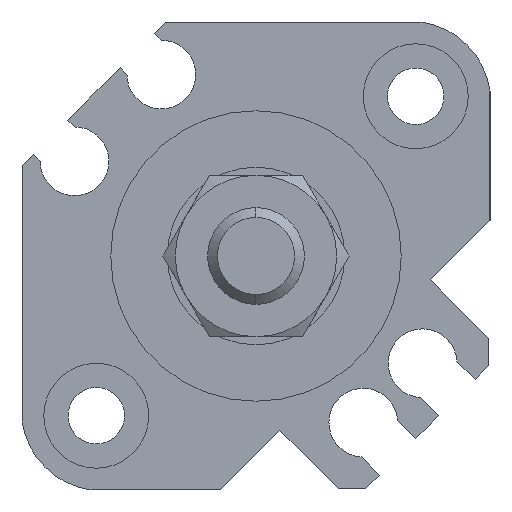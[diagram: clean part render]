
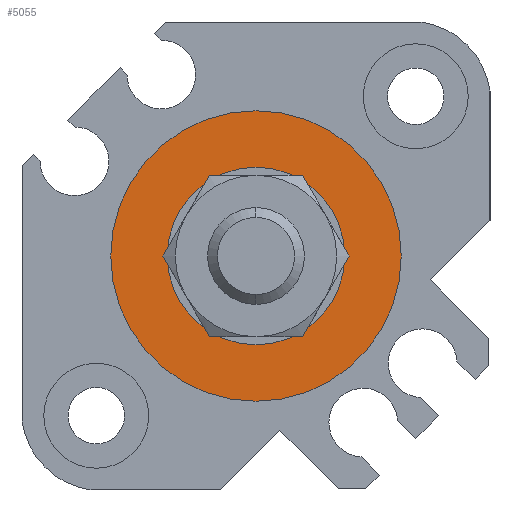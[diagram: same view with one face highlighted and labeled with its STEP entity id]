
A CAD part, left-side view. The second image highlights one B-rep face of the part: STEP entity #5055.
In plain terms, the highlighted planar face has unit normal (-1, 0, 0).
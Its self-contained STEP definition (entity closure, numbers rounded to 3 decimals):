
#274 = EDGE_LOOP ( 'NONE', ( #3745, #2729 ) ) ;
#281 = DIRECTION ( 'NONE',  ( 1., 0., 0. ) ) ;
#284 = CARTESIAN_POINT ( 'NONE',  ( 1.1, 0., 5.5 ) ) ;
#510 = CARTESIAN_POINT ( 'NONE',  ( 1.1, 0., 0. ) ) ;
#624 = DIRECTION ( 'NONE',  ( 1., 0., 0. ) ) ;
#729 = AXIS2_PLACEMENT_3D ( 'NONE', #1157, #2762, #2402 ) ;
#808 = EDGE_CURVE ( 'NONE', #3299, #2367, #1043, .T. ) ;
#972 = FACE_BOUND ( 'NONE', #274, .T. ) ;
#1043 = CIRCLE ( 'NONE', #2899, 5.5 ) ;
#1046 = DIRECTION ( 'NONE',  ( 0., 0., -1. ) ) ;
#1157 = CARTESIAN_POINT ( 'NONE',  ( 1.1, 0., 0. ) ) ;
#1321 = AXIS2_PLACEMENT_3D ( 'NONE', #3110, #281, #1046 ) ;
#1353 = CARTESIAN_POINT ( 'NONE',  ( 1.1, 0., -5.5 ) ) ;
#1378 = PLANE ( 'NONE',  #4478 ) ;
#1789 = CARTESIAN_POINT ( 'NONE',  ( 1.1, 0., 0. ) ) ;
#2160 = CIRCLE ( 'NONE', #4282, 9. ) ;
#2187 = CARTESIAN_POINT ( 'NONE',  ( 1.1, 0., 9. ) ) ;
#2221 = FACE_OUTER_BOUND ( 'NONE', #5128, .T. ) ;
#2367 = VERTEX_POINT ( 'NONE', #284 ) ;
#2402 = DIRECTION ( 'NONE',  ( 0., 0., -1. ) ) ;
#2588 = DIRECTION ( 'NONE',  ( 1., 0., 0. ) ) ;
#2614 = DIRECTION ( 'NONE',  ( 0., 1., 0. ) ) ;
#2729 = ORIENTED_EDGE ( 'NONE', *, *, #808, .T. ) ;
#2762 = DIRECTION ( 'NONE',  ( 1., 0., 0. ) ) ;
#2899 = AXIS2_PLACEMENT_3D ( 'NONE', #1789, #624, #4716 ) ;
#2915 = CIRCLE ( 'NONE', #1321, 9. ) ;
#3110 = CARTESIAN_POINT ( 'NONE',  ( 1.1, 0., 0. ) ) ;
#3120 = ORIENTED_EDGE ( 'NONE', *, *, #3757, .F. ) ;
#3243 = EDGE_CURVE ( 'NONE', #3644, #3610, #2160, .T. ) ;
#3299 = VERTEX_POINT ( 'NONE', #1353 ) ;
#3410 = DIRECTION ( 'NONE',  ( 0., 0., -1. ) ) ;
#3610 = VERTEX_POINT ( 'NONE', #4402 ) ;
#3644 = VERTEX_POINT ( 'NONE', #2187 ) ;
#3745 = ORIENTED_EDGE ( 'NONE', *, *, #3965, .T. ) ;
#3757 = EDGE_CURVE ( 'NONE', #3610, #3644, #2915, .T. ) ;
#3965 = EDGE_CURVE ( 'NONE', #2367, #3299, #4119, .T. ) ;
#4119 = CIRCLE ( 'NONE', #729, 5.5 ) ;
#4282 = AXIS2_PLACEMENT_3D ( 'NONE', #510, #4591, #3410 ) ;
#4402 = CARTESIAN_POINT ( 'NONE',  ( 1.1, 0., -9. ) ) ;
#4478 = AXIS2_PLACEMENT_3D ( 'NONE', #5039, #2588, #2614 ) ;
#4591 = DIRECTION ( 'NONE',  ( 1., 0., 0. ) ) ;
#4716 = DIRECTION ( 'NONE',  ( 0., 0., -1. ) ) ;
#4917 = ORIENTED_EDGE ( 'NONE', *, *, #3243, .F. ) ;
#5039 = CARTESIAN_POINT ( 'NONE',  ( 1.1, 0., 0. ) ) ;
#5055 = ADVANCED_FACE ( 'NONE', ( #2221, #972 ), #1378, .F. ) ;
#5128 = EDGE_LOOP ( 'NONE', ( #4917, #3120 ) ) ;
